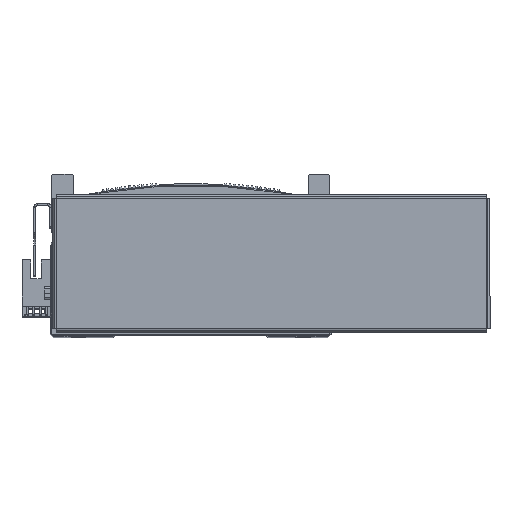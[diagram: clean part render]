
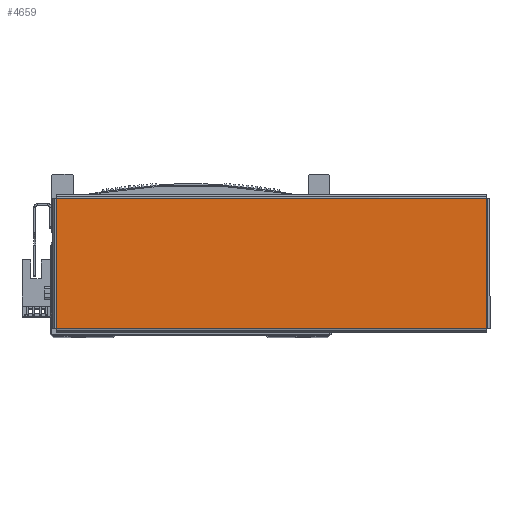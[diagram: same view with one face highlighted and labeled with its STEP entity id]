
A CAD part, top view. The second image highlights one B-rep face of the part: STEP entity #4659.
In plain terms, the highlighted planar face has unit normal (0, 0, 1) as drawn and (0, -1, 0) by its records, which use the part's own axes.
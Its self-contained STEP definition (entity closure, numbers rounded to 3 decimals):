
#3058 = EDGE_LOOP ( 'NONE', ( #38820, #38843, #38813, #38819 ) ) ;
#4659 = ADVANCED_FACE ( 'NONE', ( #9982 ), #9436, .F. ) ;
#6493 = AXIS2_PLACEMENT_3D ( 'NONE', #9420, #9421, #9440 ) ;
#9420 = CARTESIAN_POINT ( 'NONE',  ( 0., -1., 0. ) ) ;
#9421 = DIRECTION ( 'NONE',  ( 0., 1., 0. ) ) ;
#9436 = PLANE ( 'NONE',  #6493 ) ;
#9440 = DIRECTION ( 'NONE',  ( 0., 0., 1. ) ) ;
#9982 = FACE_OUTER_BOUND ( 'NONE', #3058, .T. ) ;
#20882 = VERTEX_POINT ( 'NONE', #43351 ) ;
#20887 = VERTEX_POINT ( 'NONE', #43346 ) ;
#20892 = VERTEX_POINT ( 'NONE', #43352 ) ;
#20901 = VERTEX_POINT ( 'NONE', #43323 ) ;
#38813 = ORIENTED_EDGE ( 'NONE', *, *, #56429, .T. ) ;
#38819 = ORIENTED_EDGE ( 'NONE', *, *, #56370, .T. ) ;
#38820 = ORIENTED_EDGE ( 'NONE', *, *, #56414, .T. ) ;
#38843 = ORIENTED_EDGE ( 'NONE', *, *, #56394, .T. ) ;
#43323 = CARTESIAN_POINT ( 'NONE',  ( 103.513, -1., 31.363 ) ) ;
#43346 = CARTESIAN_POINT ( 'NONE',  ( -103.513, -1., 31.363 ) ) ;
#43351 = CARTESIAN_POINT ( 'NONE',  ( 103.513, -1., -31.363 ) ) ;
#43352 = CARTESIAN_POINT ( 'NONE',  ( -103.513, -1., -31.363 ) ) ;
#52207 = DIRECTION ( 'NONE',  ( 0., 0., 1. ) ) ;
#52229 = CARTESIAN_POINT ( 'NONE',  ( 103.513, -1., -31.393 ) ) ;
#52237 = CARTESIAN_POINT ( 'NONE',  ( -103.513, -1., 31.393 ) ) ;
#52266 = DIRECTION ( 'NONE',  ( 0., 0., -1. ) ) ;
#52311 = CARTESIAN_POINT ( 'NONE',  ( 103.543, -1., 31.363 ) ) ;
#52330 = CARTESIAN_POINT ( 'NONE',  ( -103.543, -1., -31.363 ) ) ;
#52336 = DIRECTION ( 'NONE',  ( 1., 0., 0. ) ) ;
#52371 = DIRECTION ( 'NONE',  ( -1., 0., 0. ) ) ;
#53432 = VECTOR ( 'NONE', #52266, 1000. ) ;
#53439 = VECTOR ( 'NONE', #52371, 1000. ) ;
#53444 = VECTOR ( 'NONE', #52207, 1000. ) ;
#53445 = LINE ( 'NONE', #52311, #53439 ) ;
#53447 = LINE ( 'NONE', #52237, #53432 ) ;
#53462 = LINE ( 'NONE', #52330, #53463 ) ;
#53463 = VECTOR ( 'NONE', #52336, 1000. ) ;
#53475 = LINE ( 'NONE', #52229, #53444 ) ;
#56370 = EDGE_CURVE ( 'NONE', #20882, #20901, #53475, .T. ) ;
#56394 = EDGE_CURVE ( 'NONE', #20887, #20892, #53447, .T. ) ;
#56414 = EDGE_CURVE ( 'NONE', #20901, #20887, #53445, .T. ) ;
#56429 = EDGE_CURVE ( 'NONE', #20892, #20882, #53462, .T. ) ;
